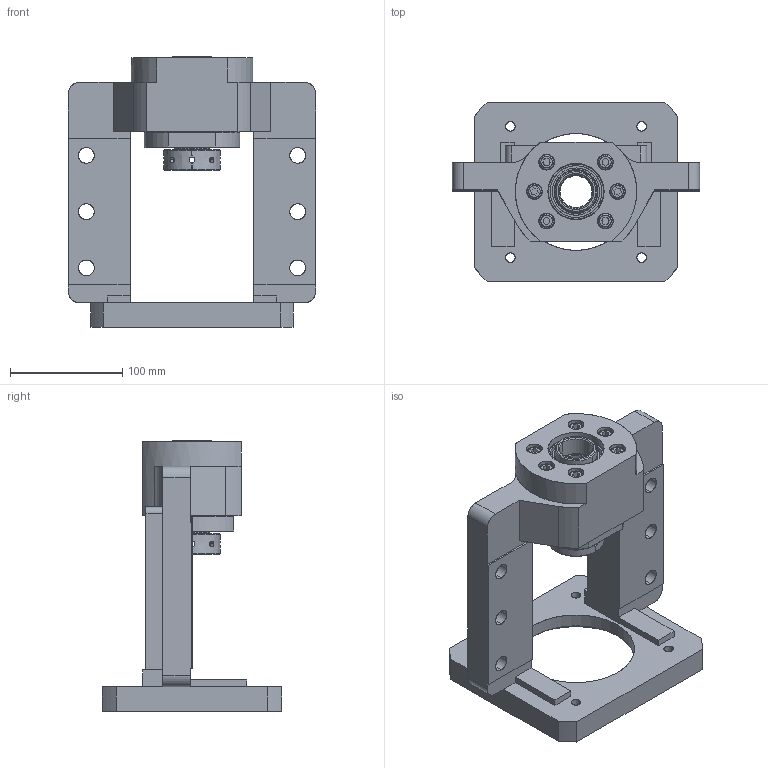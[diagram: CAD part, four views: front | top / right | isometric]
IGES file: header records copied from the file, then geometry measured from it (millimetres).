
Start section: SolidWorks IGES file using analytic representation for surfaces
Bounding box: 220 x 160 x 241 mm (x, y, z)
Surface area: 221367 mm2 (no closed solid volume)
Topology: 0 solids, 0 shells, 337 faces, 6609 edges, 6601 vertices
Faces by surface type: revolution 186, bspline 151
